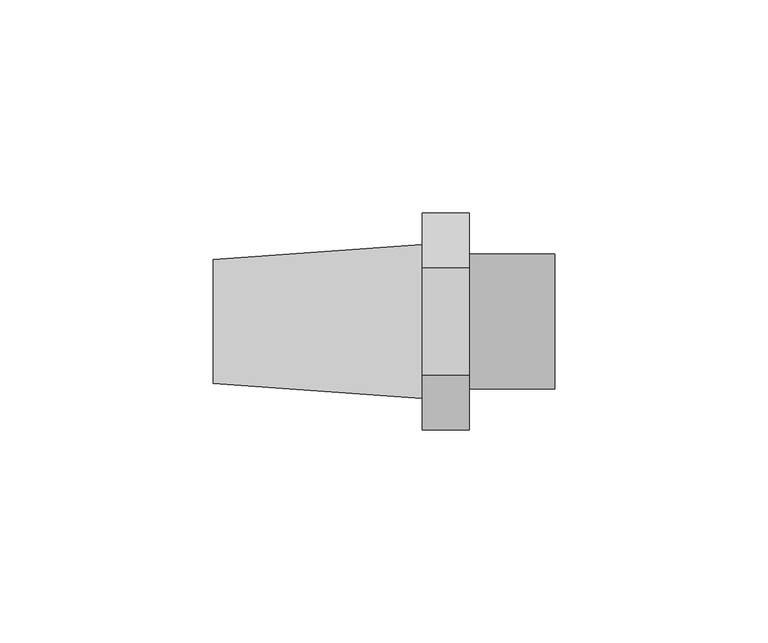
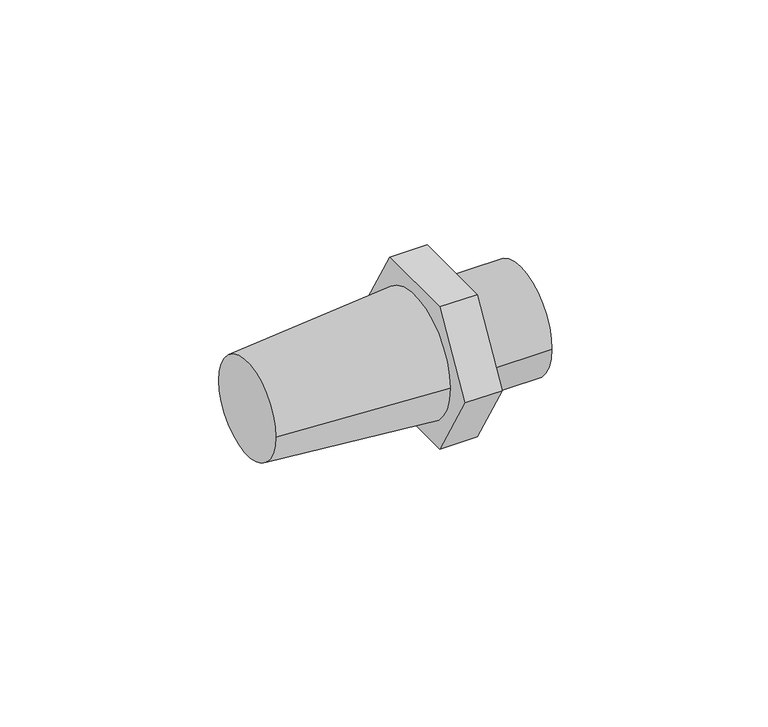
"""IFC4 building model written with IfcOpenShell, lengths in millimetres: pipe fitting geometry, 01011013 : Espiga conexion cónica/roscada."""

from ifc_helpers import new_model, si_unit, frame, origin, place, context, project, spatial, polyline, circle_curve, source, transform, mapped, element, save
from ifc_brep_helpers import plane_surface, cylinder_surface, revolved_surface, advanced_brep


def pipe_fitting_9df9415c(model_context):
    return source(origin(), model_context, "Body", "AdvancedBrep", [
        advanced_brep(
        [(-40.0, 14.5, 0.0), (-40.0, -14.5, 0.0), (9.0, 18.0, 0.0), (9.0, -18.0, 0.0)],
        [
            (0, 1, circle_curve(frame((-40.0, 0.0, 0.0), z_axis=(-1.0, 0.0, 0.0), x_axis=(0.0, 1.0, 0.0)), 14.5)),
            (1, 0, circle_curve(frame((-40.0, 0.0, 0.0), z_axis=(-1.0, 0.0, 0.0), x_axis=(0.0, -1.0, 0.0)), 14.5)),
            (2, 3, circle_curve(frame((9.0, 0.0, 0.0), z_axis=(1.0, 0.0, 0.0), x_axis=(0.0, -1.0, 0.0)), 18.0)),
            (3, 2, circle_curve(frame((9.0, 0.0, 0.0), z_axis=(1.0, 0.0, 0.0), x_axis=(0.0, 1.0, 0.0)), 18.0)),
            (3, 1),
            (0, 2),
        ],
        [
            plane_surface(frame((-40.0, 0.0, 0.0), z_axis=(-1.0, 0.0, 0.0), x_axis=(0.0, 0.0, -1.0))),
            plane_surface(frame((9.0, 0.0, 0.0), z_axis=(1.0, 0.0, 0.0), x_axis=(0.0, 0.0, -1.0))),
            revolved_surface(polyline([(-40.0, 14.5, 0.0), (9.0, 18.0, 0.0)]), (-243.0, 0.0, 0.0), (1.0, 0.0, 0.0)),
            revolved_surface(polyline([(-40.0, -14.5, 0.0), (9.0, -18.0, 0.0)]), (-243.0, 0.0, 0.0), (1.0, 0.0, 0.0)),
        ],
        [
            (0, [[1, 2]]),
            (1, [[3, 4]]),
            (2, [[-4, 5, -1, 6]]),
            (3, [[-3, -6, -2, -5]]),
        ],
    ),
        advanced_brep(
        [(20.0, -12.7017059, 22.0), (20.0, -25.4034118, 0.0), (20.0, -12.7017059, -22.0), (20.0, 12.7017059, -22.0), (20.0, 25.4034118, 0.0), (20.0, 12.7017059, 22.0), (20.0, -15.875, 0.0), (20.0, 15.875, 0.0), (9.0, -12.7017059, 22.0), (9.0, 12.7017059, 22.0), (9.0, 25.4034118, 0.0), (9.0, 12.7017059, -22.0), (9.0, -12.7017059, -22.0), (9.0, -25.4034118, 0.0), (40.0, -15.875, 0.0), (40.0, 15.875, 0.0)],
        [
            (0, 1),
            (1, 2),
            (2, 3),
            (3, 4),
            (4, 5),
            (5, 0),
            (6, 7, circle_curve(frame((20.0, 0.0, 0.0), z_axis=(-1.0, 0.0, 0.0), x_axis=(0.0, 1.0, 0.0)), 15.875)),
            (7, 6, circle_curve(frame((20.0, 0.0, 0.0), z_axis=(-1.0, 0.0, 0.0), x_axis=(0.0, 1.0, 0.0)), 15.875)),
            (8, 9),
            (9, 10),
            (10, 11),
            (11, 12),
            (12, 13),
            (13, 8),
            (0, 8),
            (13, 1),
            (12, 2),
            (11, 3),
            (10, 4),
            (9, 5),
            (14, 15, circle_curve(frame((40.0, 0.0, 0.0), z_axis=(1.0, 0.0, 0.0), x_axis=(0.0, 1.0, 0.0)), 15.875)),
            (15, 14, circle_curve(frame((40.0, 0.0, 0.0), z_axis=(1.0, 0.0, 0.0), x_axis=(0.0, 1.0, 0.0)), 15.875)),
            (15, 7),
            (6, 14),
        ],
        [
            plane_surface(frame((20.0, -12.7017059, 22.0), z_axis=(1.0000000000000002, 0.0, 0.0), x_axis=(0.0, -0.5000000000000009, -0.8660254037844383))),
            plane_surface(frame((9.0, -12.7017059, 22.0), z_axis=(-1.0000000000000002, 0.0, 0.0), x_axis=(0.0, 0.5000000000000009, 0.8660254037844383))),
            plane_surface(frame((20.0, -12.7017059, 22.0), z_axis=(0.0, -0.8660254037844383, 0.5000000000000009), x_axis=(-1.0, 0.0, 0.0))),
            plane_surface(frame((20.0, -25.4034118, 0.0), z_axis=(0.0, -0.8660254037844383, -0.5000000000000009), x_axis=(-1.0, 0.0, 0.0))),
            plane_surface(frame((20.0, -12.7017059, -22.0), z_axis=(0.0, 0.0, -1.0), x_axis=(-1.0, 0.0, 0.0))),
            plane_surface(frame((20.0, 12.7017059, -22.0), z_axis=(0.0, 0.8660254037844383, -0.5000000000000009), x_axis=(-1.0, 0.0, 0.0))),
            plane_surface(frame((20.0, 25.4034118, 0.0), z_axis=(0.0, 0.8660254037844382, 0.5000000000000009), x_axis=(-1.0, 0.0, 0.0))),
            plane_surface(frame((20.0, 12.7017059, 22.0), z_axis=(0.0, 0.0, 1.0), x_axis=(-1.0, 0.0, 0.0))),
            plane_surface(frame((40.0, 0.0, 0.0), z_axis=(1.0, 0.0, 0.0), x_axis=(0.0, 0.0, 1.0))),
            cylinder_surface(frame((20.0, 0.0, 0.0), z_axis=(-1.0, 0.0, 0.0), x_axis=(0.0, 1.0, 0.0)), 15.875),
        ],
        [
            (0, [[1, 2, 3, 4, 5, 6], [7, 8]]),
            (1, [[9, 10, 11, 12, 13, 14]]),
            (2, [[-1, 15, -14, 16]]),
            (3, [[-2, -16, -13, 17]]),
            (4, [[-3, -17, -12, 18]]),
            (5, [[-4, -18, -11, 19]]),
            (6, [[-5, -19, -10, 20]]),
            (7, [[-6, -20, -9, -15]]),
            (8, [[21, 22]]),
            (9, [[-22, 23, -7, 24]]),
            (9, [[-21, -24, -8, -23]]),
        ],
    ),
    ])


if __name__ == "__main__":
    model = new_model("IFC4")
    model_context = context("Model", 3, world=origin())
    ifc_project = project(units=[si_unit("LENGTHUNIT", "METRE", prefix="MILLI")], contexts=[model_context])
    site = spatial("IfcSite", under=ifc_project)
    building = spatial("IfcBuilding", under=site)
    placement = place(None, origin())
    pipe_fitting_shape = pipe_fitting_9df9415c(model_context)
    element("IfcPipeFitting", 1, ObjectType="01011013 : Espiga conexion cónica/roscada", at=placement, inside=building, context=model_context, shape_type="MappedRepresentation", body=[
        mapped(pipe_fitting_shape, transform((0.0, 0.0, 0.0), x_axis=(1.0, 0.0, 0.0), y_axis=(0.0, 1.0, 0.0), z_axis=(0.0, 0.0, 1.0))),
    ])
    save(model, "model.ifc")
